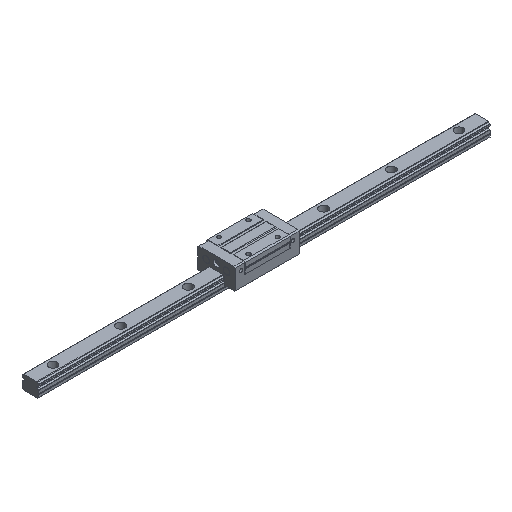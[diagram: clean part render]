
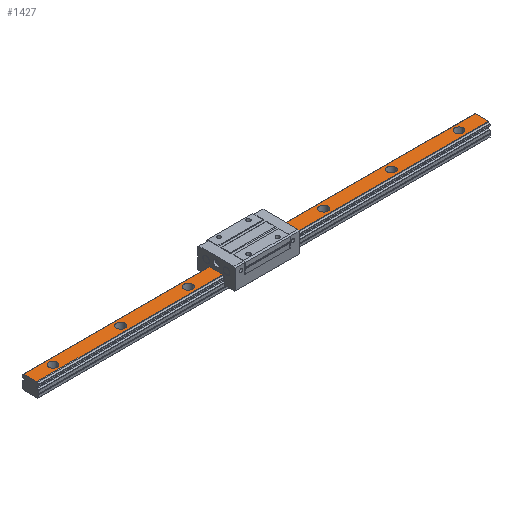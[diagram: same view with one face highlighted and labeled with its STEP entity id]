
A CAD part, isometric view. The second image highlights one B-rep face of the part: STEP entity #1427.
In plain terms, the highlighted planar face has unit normal (0, 0, 1).
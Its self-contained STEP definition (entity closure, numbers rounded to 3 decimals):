
#137=CARTESIAN_POINT('',(383.75,0.,12.5));
#138=VERTEX_POINT('',#137);
#139=CARTESIAN_POINT('',(380.0,0.,12.5));
#140=DIRECTION('',(0.0,0.0,-1.0));
#141=DIRECTION('',(1.0,0.0,0.0));
#142=AXIS2_PLACEMENT_3D('',#139,#140,#141);
#143=CIRCLE('',#142,3.75);
#144=EDGE_CURVE('',#138,#138,#143,.T.);
#247=CARTESIAN_POINT('',(323.75,0.,12.5));
#248=VERTEX_POINT('',#247);
#249=CARTESIAN_POINT('',(320.0,0.,12.5));
#250=DIRECTION('',(0.0,0.0,-1.0));
#251=DIRECTION('',(1.0,0.0,0.0));
#252=AXIS2_PLACEMENT_3D('',#249,#250,#251);
#253=CIRCLE('',#252,3.75);
#254=EDGE_CURVE('',#248,#248,#253,.T.);
#357=CARTESIAN_POINT('',(263.75,0.,12.5));
#358=VERTEX_POINT('',#357);
#359=CARTESIAN_POINT('',(260.0,0.,12.5));
#360=DIRECTION('',(0.0,0.0,-1.0));
#361=DIRECTION('',(1.0,0.0,0.0));
#362=AXIS2_PLACEMENT_3D('',#359,#360,#361);
#363=CIRCLE('',#362,3.75);
#364=EDGE_CURVE('',#358,#358,#363,.T.);
#467=CARTESIAN_POINT('',(203.75,0.,12.5));
#468=VERTEX_POINT('',#467);
#469=CARTESIAN_POINT('',(200.0,0.,12.5));
#470=DIRECTION('',(0.0,0.0,-1.0));
#471=DIRECTION('',(1.0,0.0,0.0));
#472=AXIS2_PLACEMENT_3D('',#469,#470,#471);
#473=CIRCLE('',#472,3.75);
#474=EDGE_CURVE('',#468,#468,#473,.T.);
#577=CARTESIAN_POINT('',(143.75,0.,12.5));
#578=VERTEX_POINT('',#577);
#579=CARTESIAN_POINT('',(140.0,0.,12.5));
#580=DIRECTION('',(0.0,0.0,-1.0));
#581=DIRECTION('',(1.0,0.0,0.0));
#582=AXIS2_PLACEMENT_3D('',#579,#580,#581);
#583=CIRCLE('',#582,3.75);
#584=EDGE_CURVE('',#578,#578,#583,.T.);
#687=CARTESIAN_POINT('',(83.75,0.,12.5));
#688=VERTEX_POINT('',#687);
#689=CARTESIAN_POINT('',(80.0,0.,12.5));
#690=DIRECTION('',(0.0,0.0,-1.0));
#691=DIRECTION('',(1.0,0.0,0.0));
#692=AXIS2_PLACEMENT_3D('',#689,#690,#691);
#693=CIRCLE('',#692,3.75);
#694=EDGE_CURVE('',#688,#688,#693,.T.);
#797=CARTESIAN_POINT('',(23.75,0.,12.5));
#798=VERTEX_POINT('',#797);
#799=CARTESIAN_POINT('',(20.0,0.,12.5));
#800=DIRECTION('',(0.0,0.0,-1.0));
#801=DIRECTION('',(1.0,0.0,0.0));
#802=AXIS2_PLACEMENT_3D('',#799,#800,#801);
#803=CIRCLE('',#802,3.75);
#804=EDGE_CURVE('',#798,#798,#803,.T.);
#1350=CARTESIAN_POINT('',(400.0,-5.794,12.5));
#1351=VERTEX_POINT('',#1350);
#1358=CARTESIAN_POINT('',(0.0,-5.794,12.5));
#1359=VERTEX_POINT('',#1358);
#1360=CARTESIAN_POINT('',(0.0,-5.794,12.5));
#1361=DIRECTION('',(1.0,0.0,0.0));
#1362=VECTOR('',#1361,400.0);
#1363=LINE('',#1360,#1362);
#1364=EDGE_CURVE('',#1359,#1351,#1363,.T.);
#1376=CARTESIAN_POINT('',(0.0,-5.794,12.5));
#1377=DIRECTION('',(0.0,0.0,1.0));
#1378=DIRECTION('',(1.0,0.0,0.0));
#1379=AXIS2_PLACEMENT_3D('',#1376,#1377,#1378);
#1380=PLANE('',#1379);
#1381=CARTESIAN_POINT('',(400.0,5.794,12.5));
#1382=VERTEX_POINT('',#1381);
#1383=CARTESIAN_POINT('',(400.0,-5.794,12.5));
#1384=DIRECTION('',(0.0,1.0,0.0));
#1385=VECTOR('',#1384,11.589);
#1386=LINE('',#1383,#1385);
#1387=EDGE_CURVE('',#1351,#1382,#1386,.T.);
#1388=ORIENTED_EDGE('',*,*,#1387,.T.);
#1389=CARTESIAN_POINT('',(0.0,5.794,12.5));
#1390=VERTEX_POINT('',#1389);
#1391=CARTESIAN_POINT('',(0.0,5.794,12.5));
#1392=DIRECTION('',(1.0,0.0,0.0));
#1393=VECTOR('',#1392,400.0);
#1394=LINE('',#1391,#1393);
#1395=EDGE_CURVE('',#1390,#1382,#1394,.T.);
#1396=ORIENTED_EDGE('',*,*,#1395,.F.);
#1397=CARTESIAN_POINT('',(0.0,-5.794,12.5));
#1398=DIRECTION('',(0.0,1.0,0.0));
#1399=VECTOR('',#1398,11.589);
#1400=LINE('',#1397,#1399);
#1401=EDGE_CURVE('',#1359,#1390,#1400,.T.);
#1402=ORIENTED_EDGE('',*,*,#1401,.F.);
#1403=ORIENTED_EDGE('',*,*,#1364,.T.);
#1404=EDGE_LOOP('',(#1388,#1396,#1402,#1403));
#1405=FACE_OUTER_BOUND('',#1404,.T.);
#1406=ORIENTED_EDGE('',*,*,#144,.T.);
#1407=EDGE_LOOP('',(#1406));
#1408=FACE_BOUND('',#1407,.T.);
#1409=ORIENTED_EDGE('',*,*,#254,.T.);
#1410=EDGE_LOOP('',(#1409));
#1411=FACE_BOUND('',#1410,.T.);
#1412=ORIENTED_EDGE('',*,*,#364,.T.);
#1413=EDGE_LOOP('',(#1412));
#1414=FACE_BOUND('',#1413,.T.);
#1415=ORIENTED_EDGE('',*,*,#474,.T.);
#1416=EDGE_LOOP('',(#1415));
#1417=FACE_BOUND('',#1416,.T.);
#1418=ORIENTED_EDGE('',*,*,#584,.T.);
#1419=EDGE_LOOP('',(#1418));
#1420=FACE_BOUND('',#1419,.T.);
#1421=ORIENTED_EDGE('',*,*,#694,.T.);
#1422=EDGE_LOOP('',(#1421));
#1423=FACE_BOUND('',#1422,.T.);
#1424=ORIENTED_EDGE('',*,*,#804,.T.);
#1425=EDGE_LOOP('',(#1424));
#1426=FACE_BOUND('',#1425,.T.);
#1427=ADVANCED_FACE('',(#1405,#1408,#1411,#1414,#1417,#1420,#1423,#1426),#1380,.T.);
